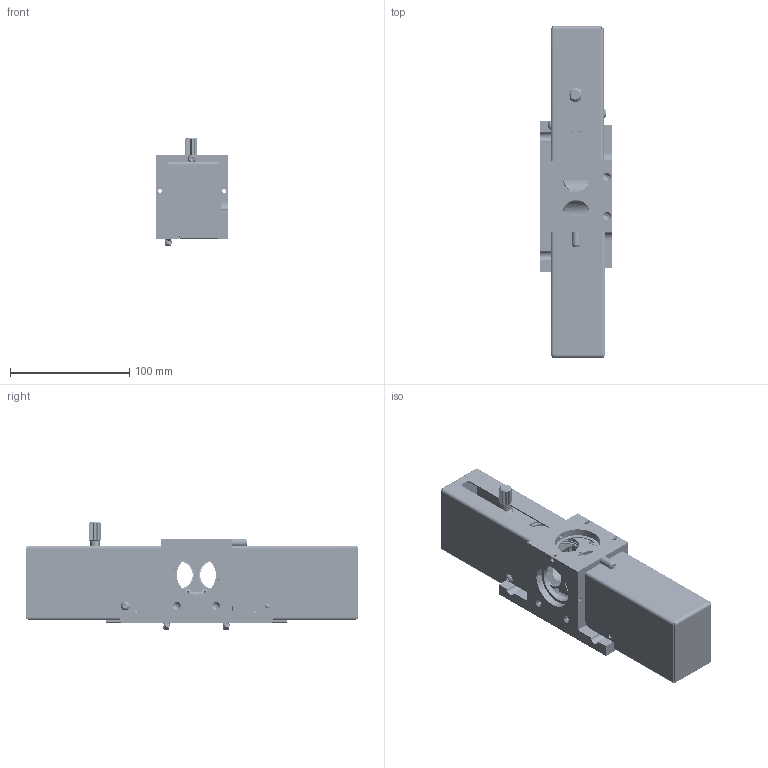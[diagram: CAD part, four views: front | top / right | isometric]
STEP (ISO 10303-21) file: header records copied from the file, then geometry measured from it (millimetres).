
FILE_DESCRIPTION (( 'STEP AP214' ), '1' );
FILE_NAME ('C60-SLIDER ASSEMBLY MANUAL VERSION (CATALOG MODEL).STEP', '2020-11-23T17:56:03', ( 'Matthew' ), ( 'Microsoft' ), 'SwSTEP 2.0', 'SolidWorks 2020', '' );
FILE_SCHEMA (( 'AUTOMOTIVE_DESIGN' ));
Length unit declared in the file: millimetre
Products named in the file (1): C60-SLIDER ASSEMBLY MANUAL VERSION (CATALOG MODEL)
Bounding box: 60 x 278.64 x 90.33 mm (x, y, z)
Volume: 364751.7 mm3; surface area: 231373.1 mm2
Topology: 51 solids, 51 shells, 3503 faces, 10122 edges, 6703 vertices
Faces by surface type: cylinder 1811, plane 1170, cone 353, bspline 119, torus 28, sphere 22
Entity records: 154214 total; most frequent: CARTESIAN_POINT 70174, ORIENTED_EDGE 20036, DIRECTION 14751, EDGE_CURVE 10018, VERTEX_POINT 6697, AXIS2_PLACEMENT_3D 5462, VECTOR 3827, LINE 3827
